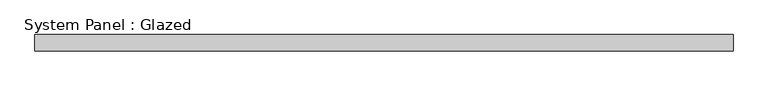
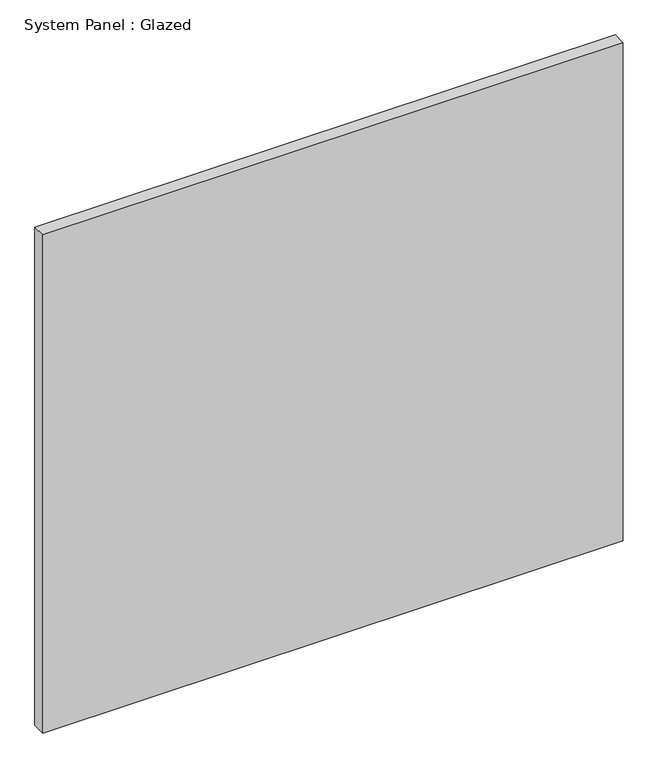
"""IFC4 building model written with IfcOpenShell, lengths in millimetres: plate geometry, System Panel : Glazed."""

import ifcopenshell
import ifcopenshell.guid

model = None  # the IFC model being written
_history = None  # IfcOwnerHistory: only IFC2X3 demands one
_inside = {}  # id of a spatial element -> (the spatial element, [elements in it])
_under = {}  # id of a project, library or spatial element -> (it, [spatial elements below it])
_declared = {}  # id of a project -> (the project, [libraries it declares])
_typed = {}  # id of a type object -> (the type object, [elements of that type])
_made_of = {}  # id of a material, layer set ... -> (it, [elements and type objects made of it])


def new_model(schema):
    """Start an empty IFC model of exactly this schema.

    Asked for "IFC4X3", IfcOpenShell would pick the latest addendum, in which some entities
    have other attributes; the version numbers below select the first issue.
    IFC2X3 requires an IfcOwnerHistory on every rooted entity: one is made here for all.
    """
    global model, _history
    if schema == "IFC4X3":
        model = ifcopenshell.file(schema_version=(4, 3, 0, 0))
    else:
        model = ifcopenshell.file(schema=schema)
    _inside.clear()
    _under.clear()
    _declared.clear()
    _typed.clear()
    _made_of.clear()
    _history = None
    if model.schema == "IFC2X3":
        org = make("IfcOrganization", Name="unknown")
        user = make(
            "IfcPersonAndOrganization",
            ThePerson=make("IfcPerson", FamilyName="unknown"),
            TheOrganization=org,
        )
        app = make(
            "IfcApplication",
            ApplicationDeveloper=org,
            Version="unknown",
            ApplicationFullName="unknown",
            ApplicationIdentifier="unknown",
        )
        _history = make(
            "IfcOwnerHistory",
            OwningUser=user,
            OwningApplication=app,
            ChangeAction="ADDED",
            CreationDate=0,
        )
    return model


def make(cls, **values):
    """One entity of the class cls with the attributes given. An attribute that is None is left unset."""
    return model.create_entity(
        cls, **{name: value for name, value in values.items() if value is not None}
    )


def rooted(cls, **values):
    """An entity with a GlobalId (a new one), such as an element, a storey or a relation."""
    return make(cls, GlobalId=ifcopenshell.guid.new(), OwnerHistory=_history, **values)


def si_unit(unit_type, name, prefix=None):
    """IfcSIUnit, for example si_unit("LENGTHUNIT", "METRE", prefix="MILLI")."""
    return make("IfcSIUnit", UnitType=unit_type, Prefix=prefix, Name=name)


def assignment(units):
    """IfcUnitAssignment: the units of a project."""
    return None if units is None else make("IfcUnitAssignment", Units=units)


def point(xyz):
    """IfcCartesianPoint."""
    return None if xyz is None else make("IfcCartesianPoint", Coordinates=xyz)


def direction(xyz):
    """IfcDirection."""
    return None if xyz is None else make("IfcDirection", DirectionRatios=xyz)


def frame(location, z_axis=None, x_axis=None):
    """IfcAxis2Placement3D, a coordinate frame: its origin and axes. An axis left out is left unset."""
    return make(
        "IfcAxis2Placement3D",
        Location=point(location),
        Axis=direction(z_axis),
        RefDirection=direction(x_axis),
    )


def origin():
    """The frame at (0, 0, 0) with its axes left unset."""
    return frame((0.0, 0.0, 0.0))


def origin_with_axes():
    """The frame at (0, 0, 0) with the z axis (0, 0, 1) and the x axis (1, 0, 0) written out."""
    return frame((0.0, 0.0, 0.0), z_axis=(0.0, 0.0, 1.0), x_axis=(1.0, 0.0, 0.0))


def place(relative_to, where):
    """IfcLocalPlacement: puts the frame where relative to a parent placement (None: the world)."""
    return make(
        "IfcLocalPlacement", PlacementRelTo=relative_to, RelativePlacement=where
    )


def context(
    kind, dimensions, precision=None, world=None, true_north=None, identifier=None
):
    """IfcGeometricRepresentationContext, for example the 3D "Model" context."""
    return make(
        "IfcGeometricRepresentationContext",
        ContextIdentifier=identifier,
        ContextType=kind,
        CoordinateSpaceDimension=dimensions,
        Precision=precision,
        WorldCoordinateSystem=world,
        TrueNorth=true_north,
    )


def project(units=None, contexts=None):
    """IfcProject with its units and contexts."""
    return rooted(
        "IfcProject",
        Name="project",
        RepresentationContexts=contexts,
        UnitsInContext=assignment(units),
    )


def spatial(cls, under=None, at=None, **own):
    """A site, building, storey or space (cls), placed at a placement, below another one or the project."""
    s = rooted(cls, ObjectPlacement=at, **own)
    if under is not None:
        _under.setdefault(under.id(), (under, []))[1].append(s)
    return s


def polyline(points):
    """IfcPolyline through the points."""
    return make("IfcPolyline", Points=[point(p) for p in points])


def outline(outer, holes=None, kind="AREA"):
    """IfcArbitraryClosedProfileDef: a profile drawn as a closed curve; with holes, ...WithVoids."""
    if holes is None:
        return make("IfcArbitraryClosedProfileDef", ProfileType=kind, OuterCurve=outer)
    return make(
        "IfcArbitraryProfileDefWithVoids",
        ProfileType=kind,
        OuterCurve=outer,
        InnerCurves=holes,
    )


def extrude(swept, where, along, depth):
    """IfcExtrudedAreaSolid: the profile swept, set in the frame where, extruded along a direction by depth."""
    return make(
        "IfcExtrudedAreaSolid",
        SweptArea=swept,
        Position=where,
        ExtrudedDirection=direction(along),
        Depth=depth,
    )


def shape(context_of_items, identifier, shape_type, items):
    """IfcShapeRepresentation: the items that make up one representation, for example the "Body"."""
    return make(
        "IfcShapeRepresentation",
        ContextOfItems=context_of_items,
        RepresentationIdentifier=identifier,
        RepresentationType=shape_type,
        Items=items,
    )


def source(mapping_origin, context_of_items, identifier, shape_type, items):
    """IfcRepresentationMap: a shape defined once, which mapped items show again and again."""
    return make(
        "IfcRepresentationMap",
        MappingOrigin=mapping_origin,
        MappedRepresentation=shape(context_of_items, identifier, shape_type, items),
    )


def transform(
    local_origin,
    x_axis=None,
    y_axis=None,
    z_axis=None,
    scale=None,
    scale2=None,
    scale3=None,
    uniform=True,
):
    """IfcCartesianTransformationOperator3D, or its non-uniform kind. x_axis, y_axis, z_axis: its Axis1, 2, 3."""
    if uniform:
        return make(
            "IfcCartesianTransformationOperator3D",
            Axis1=direction(x_axis),
            Axis2=direction(y_axis),
            LocalOrigin=point(local_origin),
            Scale=scale,
            Axis3=direction(z_axis),
        )
    return make(
        "IfcCartesianTransformationOperator3DnonUniform",
        Axis1=direction(x_axis),
        Axis2=direction(y_axis),
        LocalOrigin=point(local_origin),
        Scale=scale,
        Axis3=direction(z_axis),
        Scale2=scale2,
        Scale3=scale3,
    )


def mapped(mapping_source, mapping_target):
    """IfcMappedItem: shows the shape of a source again, moved by a transform."""
    return make(
        "IfcMappedItem", MappingSource=mapping_source, MappingTarget=mapping_target
    )


def made_of(thing, what):
    """Note that an element or type object is made of a material, layer set ...; save() writes the relation."""
    if what is not None:
        _made_of.setdefault(what.id(), (what, []))[1].append(thing)
    return thing


def element(
    cls,
    number,
    at=None,
    inside=None,
    cuts=None,
    type_object=None,
    material=None,
    context=None,
    identifier="Body",
    shape_type=None,
    held_by="IfcProductDefinitionShape",
    body=None,
    shapes=None,
    **own,
):
    """One element of the class cls, such as IfcWall. Its Tag is "e" and its number.

    at: its placement. inside: the storey or other place that contains it. cuts: it is an
    opening in that element (IfcRelVoidsElement). A single representation is given by context,
    identifier, shape_type and body (its items); several are given by shapes. held_by: the class
    of the entity that holds the representations. save() writes the other relations.
    """
    e = rooted(cls, Tag="e%d" % number, ObjectPlacement=at, **own)
    if body is not None:
        shapes = [shape(context, identifier, shape_type, body)]
    if shapes is not None:
        e.Representation = make(held_by, Representations=shapes)
    if inside is not None:
        _inside.setdefault(inside.id(), (inside, []))[1].append(e)
    if cuts is not None:
        rooted(
            "IfcRelVoidsElement", RelatingBuildingElement=cuts, RelatedOpeningElement=e
        )
    if type_object is not None:
        _typed.setdefault(type_object.id(), (type_object, []))[1].append(e)
    return made_of(e, material)


def aggregate(whole, parts):
    """IfcRelAggregates: a whole, such as a stair, and the parts it consists of."""
    return rooted("IfcRelAggregates", RelatingObject=whole, RelatedObjects=parts)


def save(model, path):
    """Write the relations noted so far, then the file.

    IfcRelAggregates (storeys below a building ...), IfcRelContainedInSpatialStructure (elements
    in a storey), IfcRelDefinesByType, IfcRelAssociatesMaterial and IfcRelDeclares: one each for
    every whole, place, type object, material and project.
    """
    for whole, parts in _under.values():
        aggregate(whole, parts)
    for where, things in _inside.values():
        rooted(
            "IfcRelContainedInSpatialStructure",
            RelatedElements=things,
            RelatingStructure=where,
        )
    for kind, things in _typed.values():
        rooted("IfcRelDefinesByType", RelatedObjects=things, RelatingType=kind)
    for what, things in _made_of.values():
        rooted("IfcRelAssociatesMaterial", RelatedObjects=things, RelatingMaterial=what)
    for by, libraries in _declared.values():
        rooted("IfcRelDeclares", RelatingContext=by, RelatedDefinitions=libraries)
    model.write(path)


def system_panel_glazed_01376e9d(model_context):
    return source(origin(), model_context, "Body", "SweptSolid", [
        extrude(outline(polyline([(537.5000001, 24.5), (-537.5000001, 24.5), (-537.5000001, 49.5), (537.5000001, 49.5), (537.5000001, 24.5)])), origin_with_axes(), (0.0, 0.0, 1.0), 975.0),
    ])


if __name__ == "__main__":
    model = new_model("IFC4")
    model_context = context("Model", 3, world=origin())
    ifc_project = project(units=[si_unit("LENGTHUNIT", "METRE", prefix="MILLI")], contexts=[model_context])
    site = spatial("IfcSite", under=ifc_project)
    building = spatial("IfcBuilding", under=site)
    placement = place(None, origin())
    system_panel_glazed_shape = system_panel_glazed_01376e9d(model_context)
    element("IfcPlate", 1, ObjectType="System Panel : Glazed", at=placement, inside=building, context=model_context, shape_type="MappedRepresentation", body=[
        mapped(system_panel_glazed_shape, transform((0.0, 0.0, 0.0), x_axis=(1.0, 0.0, 0.0), y_axis=(0.0, 1.0, 0.0), z_axis=(0.0, 0.0, 1.0))),
    ])
    save(model, "model.ifc")
